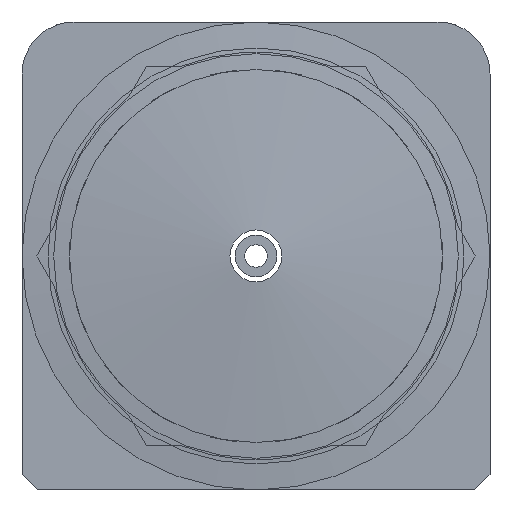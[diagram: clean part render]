
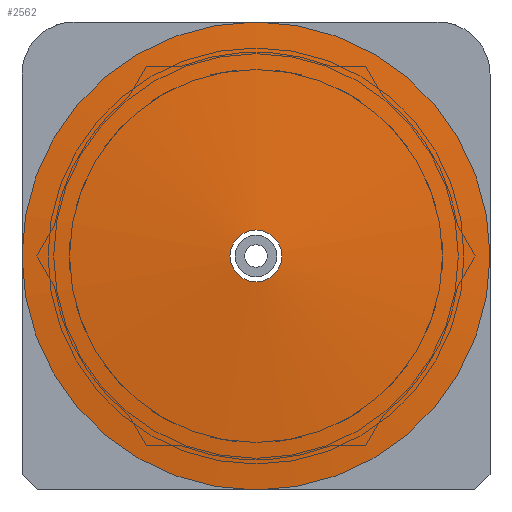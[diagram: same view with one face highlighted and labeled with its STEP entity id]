
A CAD part, front view. The second image highlights one B-rep face of the part: STEP entity #2562.
In plain terms, the highlighted spherical face has radius 127.562 mm.
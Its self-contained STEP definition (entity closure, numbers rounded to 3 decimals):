
#32=SPHERICAL_SURFACE('',#2784,127.563);
#205=CIRCLE('',#2785,22.5);
#206=CIRCLE('',#2786,2.5);
#720=ORIENTED_EDGE('',*,*,#1053,.T.);
#721=ORIENTED_EDGE('',*,*,#1054,.T.);
#1053=EDGE_CURVE('',#1247,#1247,#205,.T.);
#1054=EDGE_CURVE('',#1248,#1248,#206,.T.);
#1247=VERTEX_POINT('',#4135);
#1248=VERTEX_POINT('',#4137);
#1460=EDGE_LOOP('',(#720));
#1461=EDGE_LOOP('',(#721));
#1684=FACE_BOUND('',#1460,.T.);
#1685=FACE_BOUND('',#1461,.T.);
#2562=ADVANCED_FACE('',(#1684,#1685),#32,.T.);
#2784=AXIS2_PLACEMENT_3D('',#4133,#3222,#3223);
#2785=AXIS2_PLACEMENT_3D('',#4134,#3224,#3225);
#2786=AXIS2_PLACEMENT_3D('',#4136,#3226,#3227);
#3222=DIRECTION('',(0.,0.,1.));
#3223=DIRECTION('',(1.,0.,0.));
#3224=DIRECTION('',(0.,0.,1.));
#3225=DIRECTION('',(1.,0.,0.));
#3226=DIRECTION('',(0.,0.,-1.));
#3227=DIRECTION('',(-1.,0.,0.));
#4133=CARTESIAN_POINT('',(0.,0.,-112.063));
#4134=CARTESIAN_POINT('',(0.,0.,13.5));
#4135=CARTESIAN_POINT('',(22.5,0.,13.5));
#4136=CARTESIAN_POINT('',(0.,0.,15.475));
#4137=CARTESIAN_POINT('',(-2.5,0.,15.475));
